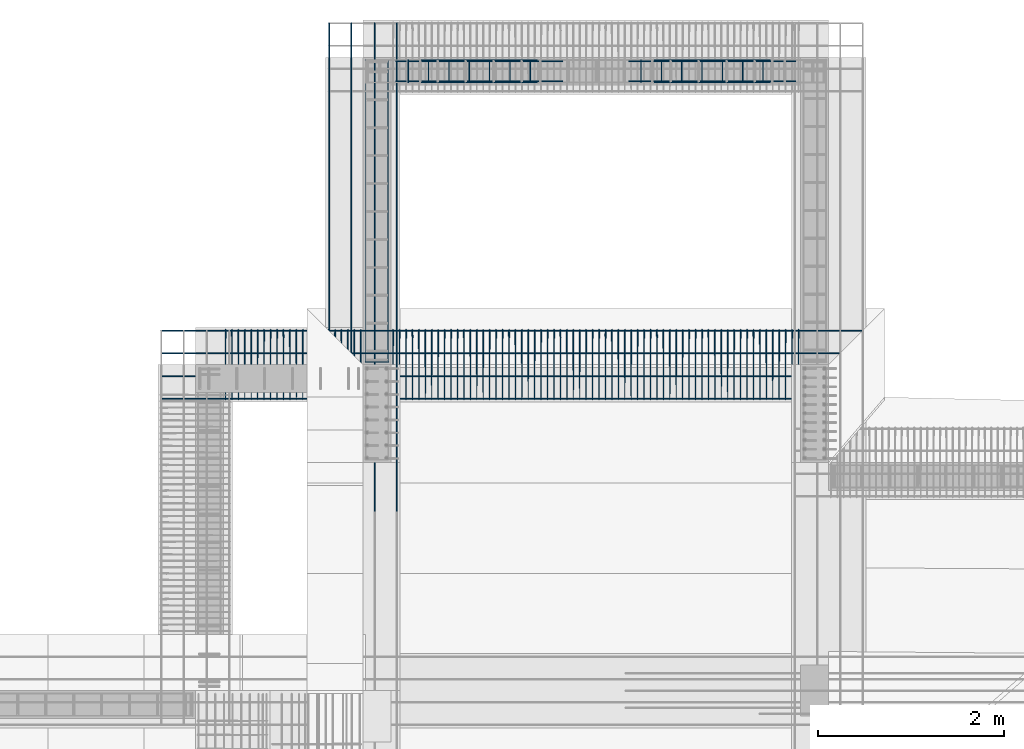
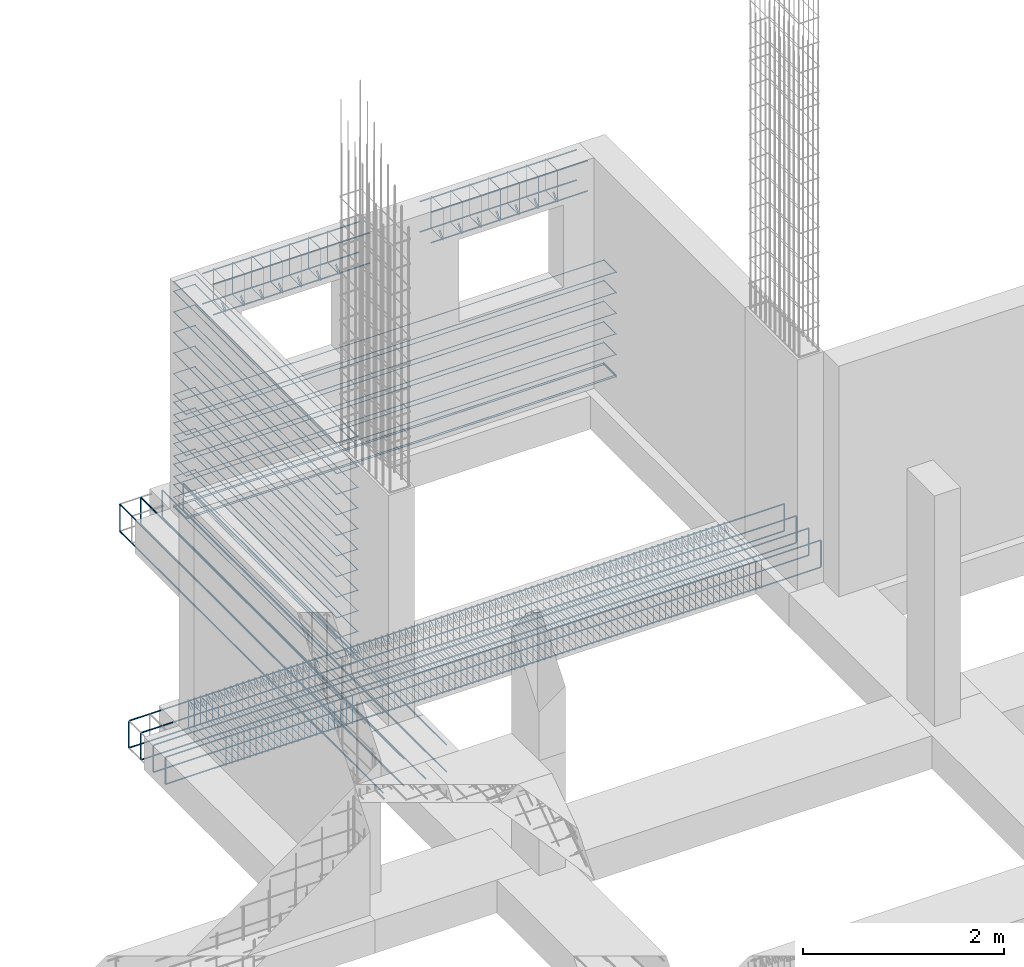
# One storey, part 11 of 15: 7 reinforcing bars.
"""IFC4 building model written with IfcOpenShell, lengths in metres."""

from ifc_helpers import new_model, entity, si_unit, origin_with_axes, place, context, project, spatial, source, transform, mapped, element, save


model = new_model("IFC4")

# Units and contexts
model_context = context("Model", 3, precision=1e-05, world=origin_with_axes())
ifc_project = project(units=[si_unit("LENGTHUNIT", "METRE"), si_unit("AREAUNIT", "SQUARE_METRE"), si_unit("VOLUMEUNIT", "CUBIC_METRE"), si_unit("MASSUNIT", "GRAM", prefix="KILO"), si_unit("TIMEUNIT", "SECOND"), si_unit("PLANEANGLEUNIT", "RADIAN"), si_unit("SOLIDANGLEUNIT", "STERADIAN"), si_unit("THERMODYNAMICTEMPERATUREUNIT", "DEGREE_CELSIUS")], contexts=[model_context])

# Site, building, storey
placement_1 = place(None, origin_with_axes())
site = spatial("IfcSite", under=ifc_project, at=placement_1, Name="Italia", CompositionType="ELEMENT")
building = spatial("IfcBuilding", under=site, at=placement_1, Name="Bifamiliare", CompositionType="ELEMENT")
storey = spatial("IfcBuildingStorey", under=building, at=placement_1, Name="Storey 0", CompositionType="ELEMENT", Elevation=0.0)

# Reinforcing bars
shared_shape_1 = source(origin_with_axes(), model_context, "Body", "AdvancedSweptSolid", [
    entity("IfcSweptDiskSolid", entity("IfcIndexedPolyCurve", entity("IfcCartesianPointList3D", [[6.08, 12.63, 0.03], [5.84, 12.63, 0.03], [5.83617, 12.6308, 0.03], [5.83293, 12.6329, 0.03], [5.83076, 12.6362, 0.03], [5.83, 12.64, 0.03], [5.83, 15.86, 0.03], [5.83076, 15.8638, 0.03], [5.83293, 15.8671, 0.03], [5.83617, 15.8692, 0.03], [5.84, 15.87, 0.03], [6.08, 15.87, 0.03]]), [entity("IfcLineIndex", [1, 2]), entity("IfcLineIndex", [2, 3]), entity("IfcLineIndex", [3, 4]), entity("IfcLineIndex", [4, 5]), entity("IfcLineIndex", [5, 6]), entity("IfcLineIndex", [6, 7]), entity("IfcLineIndex", [7, 8]), entity("IfcLineIndex", [8, 9]), entity("IfcLineIndex", [9, 10]), entity("IfcLineIndex", [10, 11]), entity("IfcLineIndex", [11, 12])], False), 0.005),
])
placement_2 = place(placement_1, origin_with_axes())
reinforcing_bar_1_placement = place(placement_2, origin_with_axes())
element("IfcReinforcingBar", 1, at=reinforcing_bar_1_placement, inside=storey, BarLength=3.73121, CrossSectionArea=7.854e-05, NominalDiameter=0.01, context=model_context, shape_type="MappedRepresentation", body=[
    mapped(shared_shape_1, transform((11.9, 28.5, 0.0), x_axis=(-1.0, 0.0, 0.0), y_axis=(0.0, -1.0, 0.0), z_axis=(0.0, 0.0, 1.0), scale=1.0)),
    mapped(shared_shape_1, transform((0.0, 0.0, 1.37), x_axis=(1.0, 0.0, 0.0), y_axis=(0.0, 1.0, 0.0), z_axis=(0.0, 0.0, 1.0), scale=1.0)),
    mapped(shared_shape_1, transform((0.0, 0.0, 2.37), x_axis=(1.0, 0.0, 0.0), y_axis=(0.0, 1.0, 0.0), z_axis=(0.0, 0.0, 1.0), scale=1.0)),
    mapped(shared_shape_1, transform((0.0, 0.0, 0.87), x_axis=(1.0, 0.0, 0.0), y_axis=(0.0, 1.0, 0.0), z_axis=(0.0, 0.0, 1.0), scale=1.0)),
    mapped(shared_shape_1, transform((0.0, 0.0, 0.62), x_axis=(1.0, 0.0, 0.0), y_axis=(0.0, 1.0, 0.0), z_axis=(0.0, 0.0, 1.0), scale=1.0)),
    mapped(shared_shape_1, transform((0.0, 0.0, 2.74), x_axis=(1.0, 0.0, 0.0), y_axis=(0.0, 1.0, 0.0), z_axis=(0.0, 0.0, 1.0), scale=1.0)),
    mapped(shared_shape_1, transform((0.0, 0.0, 1.12), x_axis=(1.0, 0.0, 0.0), y_axis=(0.0, 1.0, 0.0), z_axis=(0.0, 0.0, 1.0), scale=1.0)),
    mapped(shared_shape_1, transform((0.0, 0.0, 2.62), x_axis=(1.0, 0.0, 0.0), y_axis=(0.0, 1.0, 0.0), z_axis=(0.0, 0.0, 1.0), scale=1.0)),
    mapped(shared_shape_1, transform((0.0, 0.0, 1.62), x_axis=(1.0, 0.0, 0.0), y_axis=(0.0, 1.0, 0.0), z_axis=(0.0, 0.0, 1.0), scale=1.0)),
    mapped(shared_shape_1, transform((0.0, 0.0, 0.12), x_axis=(1.0, 0.0, 0.0), y_axis=(0.0, 1.0, 0.0), z_axis=(0.0, 0.0, 1.0), scale=1.0)),
    mapped(shared_shape_1, transform((0.0, 0.0, 0.0), x_axis=(1.0, 0.0, 0.0), y_axis=(0.0, 1.0, 0.0), z_axis=(0.0, 0.0, 1.0), scale=1.0)),
    mapped(shared_shape_1, transform((11.9, 28.5, 0.12), x_axis=(-1.0, 0.0, 0.0), y_axis=(0.0, -1.0, 0.0), z_axis=(0.0, 0.0, 1.0), scale=1.0)),
    mapped(shared_shape_1, transform((11.9, 28.5, 0.37), x_axis=(-1.0, 0.0, 0.0), y_axis=(0.0, -1.0, 0.0), z_axis=(0.0, 0.0, 1.0), scale=1.0)),
    mapped(shared_shape_1, transform((0.0, 0.0, 2.12), x_axis=(1.0, 0.0, 0.0), y_axis=(0.0, 1.0, 0.0), z_axis=(0.0, 0.0, 1.0), scale=1.0)),
    mapped(shared_shape_1, transform((0.0, 0.0, 0.37), x_axis=(1.0, 0.0, 0.0), y_axis=(0.0, 1.0, 0.0), z_axis=(0.0, 0.0, 1.0), scale=1.0)),
    mapped(shared_shape_1, transform((11.9, 28.5, 1.37), x_axis=(-1.0, 0.0, 0.0), y_axis=(0.0, -1.0, 0.0), z_axis=(0.0, 0.0, 1.0), scale=1.0)),
    mapped(shared_shape_1, transform((11.9, 28.5, 1.62), x_axis=(-1.0, 0.0, 0.0), y_axis=(0.0, -1.0, 0.0), z_axis=(0.0, 0.0, 1.0), scale=1.0)),
    mapped(shared_shape_1, transform((11.9, 28.5, 1.87), x_axis=(-1.0, 0.0, 0.0), y_axis=(0.0, -1.0, 0.0), z_axis=(0.0, 0.0, 1.0), scale=1.0)),
    mapped(shared_shape_1, transform((11.9, 28.5, 1.12), x_axis=(-1.0, 0.0, 0.0), y_axis=(0.0, -1.0, 0.0), z_axis=(0.0, 0.0, 1.0), scale=1.0)),
    mapped(shared_shape_1, transform((11.9, 28.5, 0.62), x_axis=(-1.0, 0.0, 0.0), y_axis=(0.0, -1.0, 0.0), z_axis=(0.0, 0.0, 1.0), scale=1.0)),
    mapped(shared_shape_1, transform((11.9, 28.5, 0.87), x_axis=(-1.0, 0.0, 0.0), y_axis=(0.0, -1.0, 0.0), z_axis=(0.0, 0.0, 1.0), scale=1.0)),
    mapped(shared_shape_1, transform((0.0, 0.0, 1.87), x_axis=(1.0, 0.0, 0.0), y_axis=(0.0, 1.0, 0.0), z_axis=(0.0, 0.0, 1.0), scale=1.0)),
    mapped(shared_shape_1, transform((11.9, 28.5, 2.37), x_axis=(-1.0, 0.0, 0.0), y_axis=(0.0, -1.0, 0.0), z_axis=(0.0, 0.0, 1.0), scale=1.0)),
    mapped(shared_shape_1, transform((11.9, 28.5, 2.74), x_axis=(-1.0, 0.0, 0.0), y_axis=(0.0, -1.0, 0.0), z_axis=(0.0, 0.0, 1.0), scale=1.0)),
    mapped(shared_shape_1, transform((11.9, 28.5, 2.62), x_axis=(-1.0, 0.0, 0.0), y_axis=(0.0, -1.0, 0.0), z_axis=(0.0, 0.0, 1.0), scale=1.0)),
    mapped(shared_shape_1, transform((11.9, 28.5, 2.12), x_axis=(-1.0, 0.0, 0.0), y_axis=(0.0, -1.0, 0.0), z_axis=(0.0, 0.0, 1.0), scale=1.0)),
])
shared_shape_2 = source(origin_with_axes(), model_context, "Body", "AdvancedSweptSolid", [
    entity("IfcSweptDiskSolid", entity("IfcIndexedPolyCurve", entity("IfcCartesianPointList3D", [[10.77, 15.88, 0.03], [10.77, 15.64, 0.03], [10.7692, 15.6362, 0.03], [10.7671, 15.6329, 0.03], [10.7638, 15.6308, 0.03], [10.76, 15.63, 0.03], [5.84, 15.63, 0.03], [5.83617, 15.6308, 0.03], [5.83293, 15.6329, 0.03], [5.83076, 15.6362, 0.03], [5.83, 15.64, 0.03], [5.83, 15.88, 0.03]]), [entity("IfcLineIndex", [1, 2]), entity("IfcLineIndex", [2, 3]), entity("IfcLineIndex", [3, 4]), entity("IfcLineIndex", [4, 5]), entity("IfcLineIndex", [5, 6]), entity("IfcLineIndex", [6, 7]), entity("IfcLineIndex", [7, 8]), entity("IfcLineIndex", [8, 9]), entity("IfcLineIndex", [9, 10]), entity("IfcLineIndex", [10, 11]), entity("IfcLineIndex", [11, 12])], False), 0.005),
])
reinforcing_bar_2_placement = place(placement_2, origin_with_axes())
element("IfcReinforcingBar", 2, at=reinforcing_bar_2_placement, inside=storey, BarLength=5.43122, CrossSectionArea=7.854e-05, NominalDiameter=0.01, context=model_context, shape_type="MappedRepresentation", body=[
    mapped(shared_shape_2, transform((0.0, 0.0, 0.77), x_axis=(1.0, 0.0, 0.0), y_axis=(0.0, 1.0, 0.0), z_axis=(0.0, 0.0, 1.0), scale=1.0)),
    mapped(shared_shape_2, transform((0.0, 0.0, 0.02), x_axis=(1.0, 0.0, 0.0), y_axis=(0.0, 1.0, 0.0), z_axis=(0.0, 0.0, 1.0), scale=1.0)),
    mapped(shared_shape_2, transform((0.0, 0.0, 0.0), x_axis=(1.0, 0.0, 0.0), y_axis=(0.0, 1.0, 0.0), z_axis=(0.0, 0.0, 1.0), scale=1.0)),
    mapped(shared_shape_2, transform((16.6, 31.5, 0.27), x_axis=(-1.0, 0.0, 0.0), y_axis=(0.0, -1.0, 0.0), z_axis=(0.0, 0.0, 1.0), scale=1.0)),
    mapped(shared_shape_2, transform((0.0, 0.0, 1.27), x_axis=(1.0, 0.0, 0.0), y_axis=(0.0, 1.0, 0.0), z_axis=(0.0, 0.0, 1.0), scale=1.0)),
    mapped(shared_shape_2, transform((0.0, 0.0, 0.27), x_axis=(1.0, 0.0, 0.0), y_axis=(0.0, 1.0, 0.0), z_axis=(0.0, 0.0, 1.0), scale=1.0)),
    mapped(shared_shape_2, transform((16.6, 31.5, 0.52), x_axis=(-1.0, 0.0, 0.0), y_axis=(0.0, -1.0, 0.0), z_axis=(0.0, 0.0, 1.0), scale=1.0)),
    mapped(shared_shape_2, transform((0.0, 0.0, 1.02), x_axis=(1.0, 0.0, 0.0), y_axis=(0.0, 1.0, 0.0), z_axis=(0.0, 0.0, 1.0), scale=1.0)),
    mapped(shared_shape_2, transform((16.6, 31.5, 0.0), x_axis=(-1.0, 0.0, 0.0), y_axis=(0.0, -1.0, 0.0), z_axis=(0.0, 0.0, 1.0), scale=1.0)),
    mapped(shared_shape_2, transform((16.6, 31.5, 0.02), x_axis=(-1.0, 0.0, 0.0), y_axis=(0.0, -1.0, 0.0), z_axis=(0.0, 0.0, 1.0), scale=1.0)),
    mapped(shared_shape_2, transform((0.0, 0.0, 0.52), x_axis=(1.0, 0.0, 0.0), y_axis=(0.0, 1.0, 0.0), z_axis=(0.0, 0.0, 1.0), scale=1.0)),
    mapped(shared_shape_2, transform((16.6, 31.5, 1.27), x_axis=(-1.0, 0.0, 0.0), y_axis=(0.0, -1.0, 0.0), z_axis=(0.0, 0.0, 1.0), scale=1.0)),
    mapped(shared_shape_2, transform((16.6, 31.5, 0.77), x_axis=(-1.0, 0.0, 0.0), y_axis=(0.0, -1.0, 0.0), z_axis=(0.0, 0.0, 1.0), scale=1.0)),
    mapped(shared_shape_2, transform((16.6, 31.5, 1.02), x_axis=(-1.0, 0.0, 0.0), y_axis=(0.0, -1.0, 0.0), z_axis=(0.0, 0.0, 1.0), scale=1.0)),
])
shared_shape_3 = source(origin_with_axes(), model_context, "Body", "AdvancedSweptSolid", [
    entity("IfcSweptDiskSolid", entity("IfcIndexedPolyCurve", entity("IfcCartesianPointList3D", [[10.45, 15.641, 2.391], [8.65, 15.641, 2.391]]), [entity("IfcLineIndex", [1, 2])], False), 0.008),
])
reinforcing_bar_3_placement = place(placement_2, origin_with_axes())
element("IfcReinforcingBar", 3, at=reinforcing_bar_3_placement, inside=storey, BarLength=1.8, CrossSectionArea=0.00020106, NominalDiameter=0.016, context=model_context, shape_type="MappedRepresentation", body=[
    mapped(shared_shape_3, transform((-2.5, 0.0, 0.368001), x_axis=(1.0, 0.0, 0.0), y_axis=(0.0, 1.0, 0.0), z_axis=(0.0, 0.0, 1.0), scale=1.0)),
    mapped(shared_shape_3, transform((-2.5, 0.0, 0.0), x_axis=(1.0, 0.0, 0.0), y_axis=(0.0, 1.0, 0.0), z_axis=(0.0, 0.0, 1.0), scale=1.0)),
    mapped(shared_shape_3, transform((-2.5, 0.218, 0.368001), x_axis=(1.0, 0.0, 0.0), y_axis=(0.0, 1.0, 0.0), z_axis=(0.0, 0.0, 1.0), scale=1.0)),
    mapped(shared_shape_3, transform((-2.5, 0.218, 0.0), x_axis=(1.0, 0.0, 0.0), y_axis=(0.0, 1.0, 0.0), z_axis=(0.0, 0.0, 1.0), scale=1.0)),
    mapped(shared_shape_3, transform((0.0, 0.0, 0.368001), x_axis=(1.0, 0.0, 0.0), y_axis=(0.0, 1.0, 0.0), z_axis=(0.0, 0.0, 1.0), scale=1.0)),
    mapped(shared_shape_3, transform((0.0, 0.0, 0.0), x_axis=(1.0, 0.0, 0.0), y_axis=(0.0, 1.0, 0.0), z_axis=(0.0, 0.0, 1.0), scale=1.0)),
    mapped(shared_shape_3, transform((0.0, 0.218, 0.368001), x_axis=(1.0, 0.0, 0.0), y_axis=(0.0, 1.0, 0.0), z_axis=(0.0, 0.0, 1.0), scale=1.0)),
    mapped(shared_shape_3, transform((0.0, 0.218, 0.0), x_axis=(1.0, 0.0, 0.0), y_axis=(0.0, 1.0, 0.0), z_axis=(0.0, 0.0, 1.0), scale=1.0)),
])
shared_shape_4 = source(origin_with_axes(), model_context, "Body", "AdvancedSweptSolid", [
    entity("IfcSweptDiskSolid", entity("IfcIndexedPolyCurve", entity("IfcCartesianPointList3D", [[10.096, 15.6997, 2.47071], [10.096, 15.6319, 2.40293], [10.096, 15.629, 2.39586], [10.096, 15.629, 2.389], [10.096, 15.6298, 2.38517], [10.096, 15.6319, 2.38193], [10.096, 15.6352, 2.37976], [10.096, 15.639, 2.379], [10.096, 15.861, 2.379], [10.096, 15.8648, 2.37976], [10.096, 15.8681, 2.38193], [10.096, 15.8702, 2.38517], [10.096, 15.871, 2.389], [10.096, 15.871, 2.761], [10.096, 15.8702, 2.76483], [10.096, 15.8681, 2.76807], [10.096, 15.8648, 2.77024], [10.096, 15.861, 2.771], [10.096, 15.639, 2.771], [10.096, 15.6352, 2.77024], [10.096, 15.6319, 2.76807], [10.096, 15.6298, 2.76483], [10.096, 15.629, 2.761], [10.096, 15.629, 2.389], [10.096, 15.6298, 2.38517], [10.096, 15.6319, 2.38193], [10.096, 15.6352, 2.37976], [10.096, 15.639, 2.379], [10.096, 15.6459, 2.379], [10.096, 15.6529, 2.38193], [10.096, 15.7207, 2.44971]]), [entity("IfcLineIndex", [1, 2]), entity("IfcLineIndex", [2, 3]), entity("IfcLineIndex", [3, 4]), entity("IfcLineIndex", [4, 5]), entity("IfcLineIndex", [5, 6]), entity("IfcLineIndex", [6, 7]), entity("IfcLineIndex", [7, 8]), entity("IfcLineIndex", [8, 9]), entity("IfcLineIndex", [9, 10]), entity("IfcLineIndex", [10, 11]), entity("IfcLineIndex", [11, 12]), entity("IfcLineIndex", [12, 13]), entity("IfcLineIndex", [13, 14]), entity("IfcLineIndex", [14, 15]), entity("IfcLineIndex", [15, 16]), entity("IfcLineIndex", [16, 17]), entity("IfcLineIndex", [17, 18]), entity("IfcLineIndex", [18, 19]), entity("IfcLineIndex", [19, 20]), entity("IfcLineIndex", [20, 21]), entity("IfcLineIndex", [21, 22]), entity("IfcLineIndex", [22, 23]), entity("IfcLineIndex", [23, 24]), entity("IfcLineIndex", [24, 25]), entity("IfcLineIndex", [25, 26]), entity("IfcLineIndex", [26, 27]), entity("IfcLineIndex", [27, 28]), entity("IfcLineIndex", [28, 29]), entity("IfcLineIndex", [29, 30]), entity("IfcLineIndex", [30, 31])], False), 0.004),
])
reinforcing_bar_4_placement = place(placement_2, origin_with_axes())
element("IfcReinforcingBar", 4, at=reinforcing_bar_4_placement, inside=storey, BarLength=1.48678, CrossSectionArea=5.0265e-05, NominalDiameter=0.008, context=model_context, shape_type="MappedRepresentation", body=[
    mapped(shared_shape_4, transform((-2.7184, 0.0, 0.0), x_axis=(1.0, 0.0, 0.0), y_axis=(0.0, 1.0, 0.0), z_axis=(0.0, 0.0, 1.0), scale=1.0)),
    mapped(shared_shape_4, transform((-2.5, 0.0, 0.0), x_axis=(1.0, 0.0, 0.0), y_axis=(0.0, 1.0, 0.0), z_axis=(0.0, 0.0, 1.0), scale=1.0)),
    mapped(shared_shape_4, transform((-2.9368, 0.0, 0.0), x_axis=(1.0, 0.0, 0.0), y_axis=(0.0, 1.0, 0.0), z_axis=(0.0, 0.0, 1.0), scale=1.0)),
    mapped(shared_shape_4, transform((-3.3736, 0.0, 0.0), x_axis=(1.0, 0.0, 0.0), y_axis=(0.0, 1.0, 0.0), z_axis=(0.0, 0.0, 1.0), scale=1.0)),
    mapped(shared_shape_4, transform((-3.1552, 0.0, 0.0), x_axis=(1.0, 0.0, 0.0), y_axis=(0.0, 1.0, 0.0), z_axis=(0.0, 0.0, 1.0), scale=1.0)),
    mapped(shared_shape_4, transform((-3.592, 0.0, 0.0), x_axis=(1.0, 0.0, 0.0), y_axis=(0.0, 1.0, 0.0), z_axis=(0.0, 0.0, 1.0), scale=1.0)),
    mapped(shared_shape_4, transform((0.0, 0.0, 0.0), x_axis=(1.0, 0.0, 0.0), y_axis=(0.0, 1.0, 0.0), z_axis=(0.0, 0.0, 1.0), scale=1.0)),
    mapped(shared_shape_4, transform((-3.8104, 0.0, 0.0), x_axis=(1.0, 0.0, 0.0), y_axis=(0.0, 1.0, 0.0), z_axis=(0.0, 0.0, 1.0), scale=1.0)),
    mapped(shared_shape_4, transform((-0.2184, 0.0, 0.0), x_axis=(1.0, 0.0, 0.0), y_axis=(0.0, 1.0, 0.0), z_axis=(0.0, 0.0, 1.0), scale=1.0)),
    mapped(shared_shape_4, transform((-0.6552, 0.0, 0.0), x_axis=(1.0, 0.0, 0.0), y_axis=(0.0, 1.0, 0.0), z_axis=(0.0, 0.0, 1.0), scale=1.0)),
    mapped(shared_shape_4, transform((-0.4368, 0.0, 0.0), x_axis=(1.0, 0.0, 0.0), y_axis=(0.0, 1.0, 0.0), z_axis=(0.0, 0.0, 1.0), scale=1.0)),
    mapped(shared_shape_4, transform((-0.8736, 0.0, 0.0), x_axis=(1.0, 0.0, 0.0), y_axis=(0.0, 1.0, 0.0), z_axis=(0.0, 0.0, 1.0), scale=1.0)),
    mapped(shared_shape_4, transform((-1.3104, 0.0, 0.0), x_axis=(1.0, 0.0, 0.0), y_axis=(0.0, 1.0, 0.0), z_axis=(0.0, 0.0, 1.0), scale=1.0)),
    mapped(shared_shape_4, transform((-1.092, 0.0, 0.0), x_axis=(1.0, 0.0, 0.0), y_axis=(0.0, 1.0, 0.0), z_axis=(0.0, 0.0, 1.0), scale=1.0)),
])
shared_shape_5 = source(origin_with_axes(), model_context, "Body", "AdvancedSweptSolid", [
    entity("IfcSweptDiskSolid", entity("IfcIndexedPolyCurve", entity("IfcCartesianPointList3D", [[4.32, 12.9053, -0.115711], [4.32035, 12.9731, -0.0479289], [4.32037, 12.976, -0.0408578], [4.3204, 12.976, -0.034], [4.32041, 12.9752, -0.0301732], [4.32043, 12.9731, -0.0269289], [4.32044, 12.9698, -0.0247612], [4.32045, 12.966, -0.024], [4.32309, 12.234, -0.024], [4.32311, 12.2302, -0.0247612], [4.32312, 12.2269, -0.0269289], [4.32313, 12.2248, -0.0301732], [4.32315, 12.224, -0.034], [4.32435, 12.224, -0.366], [4.32436, 12.2248, -0.369827], [4.32437, 12.2269, -0.373071], [4.32439, 12.2302, -0.375239], [4.3244, 12.234, -0.376], [4.32704, 12.966, -0.376], [4.32705, 12.9698, -0.375239], [4.32707, 12.9731, -0.373071], [4.32708, 12.9752, -0.369827], [4.3271, 12.976, -0.366], [4.32829, 12.976, -0.034], [4.32831, 12.9752, -0.0301732], [4.32832, 12.9731, -0.0269289], [4.32833, 12.9698, -0.0247612], [4.32835, 12.966, -0.024], [4.32837, 12.9591, -0.024], [4.3284, 12.9521, -0.0269289], [4.32875, 12.8843, -0.0947113]]), [entity("IfcLineIndex", [1, 2]), entity("IfcLineIndex", [2, 3]), entity("IfcLineIndex", [3, 4]), entity("IfcLineIndex", [4, 5]), entity("IfcLineIndex", [5, 6]), entity("IfcLineIndex", [6, 7]), entity("IfcLineIndex", [7, 8]), entity("IfcLineIndex", [8, 9]), entity("IfcLineIndex", [9, 10]), entity("IfcLineIndex", [10, 11]), entity("IfcLineIndex", [11, 12]), entity("IfcLineIndex", [12, 13]), entity("IfcLineIndex", [13, 14]), entity("IfcLineIndex", [14, 15]), entity("IfcLineIndex", [15, 16]), entity("IfcLineIndex", [16, 17]), entity("IfcLineIndex", [17, 18]), entity("IfcLineIndex", [18, 19]), entity("IfcLineIndex", [19, 20]), entity("IfcLineIndex", [20, 21]), entity("IfcLineIndex", [21, 22]), entity("IfcLineIndex", [22, 23]), entity("IfcLineIndex", [23, 24]), entity("IfcLineIndex", [24, 25]), entity("IfcLineIndex", [25, 26]), entity("IfcLineIndex", [26, 27]), entity("IfcLineIndex", [27, 28]), entity("IfcLineIndex", [28, 29]), entity("IfcLineIndex", [29, 30]), entity("IfcLineIndex", [30, 31])], False), 0.004),
])
reinforcing_bar_5_placement = place(placement_2, origin_with_axes())
element("IfcReinforcingBar", 5, at=reinforcing_bar_5_placement, inside=storey, BarLength=2.42679, CrossSectionArea=5.0265e-05, NominalDiameter=0.008, context=model_context, shape_type="MappedRepresentation", body=[
    mapped(shared_shape_5, transform((3.18159, 0.0, 0.0), x_axis=(1.0, 0.0, 0.0), y_axis=(0.0, 1.0, 0.0), z_axis=(0.0, 0.0, 1.0), scale=1.0)),
    mapped(shared_shape_5, transform((2.00724, 0.0, 0.0), x_axis=(1.0, 0.0, 0.0), y_axis=(0.0, 1.0, 0.0), z_axis=(0.0, 0.0, 1.0), scale=1.0)),
    mapped(shared_shape_5, transform((1.86908, 0.0, 0.0), x_axis=(1.0, 0.0, 0.0), y_axis=(0.0, 1.0, 0.0), z_axis=(0.0, 0.0, 1.0), scale=1.0)),
    mapped(shared_shape_5, transform((1.8, 0.0, 0.0), x_axis=(1.0, 0.0, 0.0), y_axis=(0.0, 1.0, 0.0), z_axis=(0.0, 0.0, 1.0), scale=1.0)),
    mapped(shared_shape_5, transform((3.11251, 0.0, 0.0), x_axis=(1.0, 0.0, 0.0), y_axis=(0.0, 1.0, 0.0), z_axis=(0.0, 0.0, 1.0), scale=1.0)),
    mapped(shared_shape_5, transform((1.93816, 0.0, 0.0), x_axis=(1.0, 0.0, 0.0), y_axis=(0.0, 1.0, 0.0), z_axis=(0.0, 0.0, 1.0), scale=1.0)),
    mapped(shared_shape_5, transform((2.1454, 0.0, 0.0), x_axis=(1.0, 0.0, 0.0), y_axis=(0.0, 1.0, 0.0), z_axis=(0.0, 0.0, 1.0), scale=1.0)),
    mapped(shared_shape_5, transform((2.07632, 0.0, 0.0), x_axis=(1.0, 0.0, 0.0), y_axis=(0.0, 1.0, 0.0), z_axis=(0.0, 0.0, 1.0), scale=1.0)),
    mapped(shared_shape_5, transform((2.28356, 0.0, 0.0), x_axis=(1.0, 0.0, 0.0), y_axis=(0.0, 1.0, 0.0), z_axis=(0.0, 0.0, 1.0), scale=1.0)),
    mapped(shared_shape_5, transform((2.21448, 0.0, 0.0), x_axis=(1.0, 0.0, 0.0), y_axis=(0.0, 1.0, 0.0), z_axis=(0.0, 0.0, 1.0), scale=1.0)),
    mapped(shared_shape_5, transform((2.42171, 0.0, 0.0), x_axis=(1.0, 0.0, 0.0), y_axis=(0.0, 1.0, 0.0), z_axis=(0.0, 0.0, 1.0), scale=1.0)),
    mapped(shared_shape_5, transform((2.69803, 0.0, 0.0), x_axis=(1.0, 0.0, 0.0), y_axis=(0.0, 1.0, 0.0), z_axis=(0.0, 0.0, 1.0), scale=1.0)),
    mapped(shared_shape_5, transform((2.55987, 0.0, 0.0), x_axis=(1.0, 0.0, 0.0), y_axis=(0.0, 1.0, 0.0), z_axis=(0.0, 0.0, 1.0), scale=1.0)),
    mapped(shared_shape_5, transform((2.49079, 0.0, 0.0), x_axis=(1.0, 0.0, 0.0), y_axis=(0.0, 1.0, 0.0), z_axis=(0.0, 0.0, 1.0), scale=1.0)),
    mapped(shared_shape_5, transform((2.35263, 0.0, 0.0), x_axis=(1.0, 0.0, 0.0), y_axis=(0.0, 1.0, 0.0), z_axis=(0.0, 0.0, 1.0), scale=1.0)),
    mapped(shared_shape_5, transform((2.62895, 0.0, 0.0), x_axis=(1.0, 0.0, 0.0), y_axis=(0.0, 1.0, 0.0), z_axis=(0.0, 0.0, 1.0), scale=1.0)),
    mapped(shared_shape_5, transform((2.83619, 0.0, 0.0), x_axis=(1.0, 0.0, 0.0), y_axis=(0.0, 1.0, 0.0), z_axis=(0.0, 0.0, 1.0), scale=1.0)),
    mapped(shared_shape_5, transform((2.76711, 0.0, 0.0), x_axis=(1.0, 0.0, 0.0), y_axis=(0.0, 1.0, 0.0), z_axis=(0.0, 0.0, 1.0), scale=1.0)),
    mapped(shared_shape_5, transform((2.97435, 0.0, 0.0), x_axis=(1.0, 0.0, 0.0), y_axis=(0.0, 1.0, 0.0), z_axis=(0.0, 0.0, 1.0), scale=1.0)),
    mapped(shared_shape_5, transform((2.90527, 0.0, 0.0), x_axis=(1.0, 0.0, 0.0), y_axis=(0.0, 1.0, 0.0), z_axis=(0.0, 0.0, 1.0), scale=1.0)),
    mapped(shared_shape_5, transform((1.38286, 0.0, 0.0), x_axis=(1.0, 0.0, 0.0), y_axis=(0.0, 1.0, 0.0), z_axis=(0.0, 0.0, 1.0), scale=1.0)),
    mapped(shared_shape_5, transform((0.207428, 0.0, 0.0), x_axis=(1.0, 0.0, 0.0), y_axis=(0.0, 1.0, 0.0), z_axis=(0.0, 0.0, 1.0), scale=1.0)),
    mapped(shared_shape_5, transform((0.0691428, 0.0, 0.0), x_axis=(1.0, 0.0, 0.0), y_axis=(0.0, 1.0, 0.0), z_axis=(0.0, 0.0, 1.0), scale=1.0)),
    mapped(shared_shape_5, transform((1.452, 0.0, 0.0), x_axis=(1.0, 0.0, 0.0), y_axis=(0.0, 1.0, 0.0), z_axis=(0.0, 0.0, 1.0), scale=1.0)),
    mapped(shared_shape_5, transform((3.04343, 0.0, 0.0), x_axis=(1.0, 0.0, 0.0), y_axis=(0.0, 1.0, 0.0), z_axis=(0.0, 0.0, 1.0), scale=1.0)),
    mapped(shared_shape_5, transform((0.138286, 0.0, 0.0), x_axis=(1.0, 0.0, 0.0), y_axis=(0.0, 1.0, 0.0), z_axis=(0.0, 0.0, 1.0), scale=1.0)),
    mapped(shared_shape_5, transform((0.345714, 0.0, 0.0), x_axis=(1.0, 0.0, 0.0), y_axis=(0.0, 1.0, 0.0), z_axis=(0.0, 0.0, 1.0), scale=1.0)),
    mapped(shared_shape_5, transform((0.276571, 0.0, 0.0), x_axis=(1.0, 0.0, 0.0), y_axis=(0.0, 1.0, 0.0), z_axis=(0.0, 0.0, 1.0), scale=1.0)),
    mapped(shared_shape_5, transform((0.484, 0.0, 0.0), x_axis=(1.0, 0.0, 0.0), y_axis=(0.0, 1.0, 0.0), z_axis=(0.0, 0.0, 1.0), scale=1.0)),
    mapped(shared_shape_5, transform((0.414857, 0.0, 0.0), x_axis=(1.0, 0.0, 0.0), y_axis=(0.0, 1.0, 0.0), z_axis=(0.0, 0.0, 1.0), scale=1.0)),
    mapped(shared_shape_5, transform((0.622285, 0.0, 0.0), x_axis=(1.0, 0.0, 0.0), y_axis=(0.0, 1.0, 0.0), z_axis=(0.0, 0.0, 1.0), scale=1.0)),
    mapped(shared_shape_5, transform((0.898857, 0.0, 0.0), x_axis=(1.0, 0.0, 0.0), y_axis=(0.0, 1.0, 0.0), z_axis=(0.0, 0.0, 1.0), scale=1.0)),
    mapped(shared_shape_5, transform((0.760571, 0.0, 0.0), x_axis=(1.0, 0.0, 0.0), y_axis=(0.0, 1.0, 0.0), z_axis=(0.0, 0.0, 1.0), scale=1.0)),
    mapped(shared_shape_5, transform((0.691428, 0.0, 0.0), x_axis=(1.0, 0.0, 0.0), y_axis=(0.0, 1.0, 0.0), z_axis=(0.0, 0.0, 1.0), scale=1.0)),
    mapped(shared_shape_5, transform((0.553143, 0.0, 0.0), x_axis=(1.0, 0.0, 0.0), y_axis=(0.0, 1.0, 0.0), z_axis=(0.0, 0.0, 1.0), scale=1.0)),
    mapped(shared_shape_5, transform((0.829714, 0.0, 0.0), x_axis=(1.0, 0.0, 0.0), y_axis=(0.0, 1.0, 0.0), z_axis=(0.0, 0.0, 1.0), scale=1.0)),
    mapped(shared_shape_5, transform((1.03714, 0.0, 0.0), x_axis=(1.0, 0.0, 0.0), y_axis=(0.0, 1.0, 0.0), z_axis=(0.0, 0.0, 1.0), scale=1.0)),
    mapped(shared_shape_5, transform((0.967999, 0.0, 0.0), x_axis=(1.0, 0.0, 0.0), y_axis=(0.0, 1.0, 0.0), z_axis=(0.0, 0.0, 1.0), scale=1.0)),
    mapped(shared_shape_5, transform((1.17543, 0.0, 0.0), x_axis=(1.0, 0.0, 0.0), y_axis=(0.0, 1.0, 0.0), z_axis=(0.0, 0.0, 1.0), scale=1.0)),
    mapped(shared_shape_5, transform((1.10629, 0.0, 0.0), x_axis=(1.0, 0.0, 0.0), y_axis=(0.0, 1.0, 0.0), z_axis=(0.0, 0.0, 1.0), scale=1.0)),
    mapped(shared_shape_5, transform((1.31371, 0.0, 0.0), x_axis=(1.0, 0.0, 0.0), y_axis=(0.0, 1.0, 0.0), z_axis=(0.0, 0.0, 1.0), scale=1.0)),
    mapped(shared_shape_5, transform((4.90873, -5.24521e-05, 2.13087e-05), x_axis=(1.0, 1.22364e-05, 0.0), y_axis=(-1.19779e-05, 1.0, 0.0), z_axis=(0.0, 0.0, 1.0), scale=1.0)),
    mapped(shared_shape_5, transform((0.0, 0.0, 0.0), x_axis=(1.0, 0.0, 0.0), y_axis=(0.0, 1.0, 0.0), z_axis=(0.0, 0.0, 1.0), scale=1.0)),
    mapped(shared_shape_5, transform((6.15216, -5.24521e-05, 2.13087e-05), x_axis=(1.0, 1.22364e-05, 0.0), y_axis=(-1.19779e-05, 1.0, 0.0), z_axis=(0.0, 0.0, 1.0), scale=1.0)),
    mapped(shared_shape_5, transform((1.24457, 0.0, 0.0), x_axis=(1.0, 0.0, 0.0), y_axis=(0.0, 1.0, 0.0), z_axis=(0.0, 0.0, 1.0), scale=1.0)),
    mapped(shared_shape_5, transform((4.83965, -5.24521e-05, 2.13087e-05), x_axis=(1.0, 1.22364e-05, 0.0), y_axis=(-1.19779e-05, 1.0, 0.0), z_axis=(0.0, 0.0, 1.0), scale=1.0)),
    mapped(shared_shape_5, transform((5.04689, -5.24521e-05, 2.13087e-05), x_axis=(1.0, 1.22364e-05, 0.0), y_axis=(-1.19779e-05, 1.0, 0.0), z_axis=(0.0, 0.0, 1.0), scale=1.0)),
    mapped(shared_shape_5, transform((4.97781, -5.24521e-05, 2.13087e-05), x_axis=(1.0, 1.22364e-05, 0.0), y_axis=(-1.19779e-05, 1.0, 0.0), z_axis=(0.0, 0.0, 1.0), scale=1.0)),
    mapped(shared_shape_5, transform((5.18505, -5.24521e-05, 2.13087e-05), x_axis=(1.0, 1.22364e-05, 0.0), y_axis=(-1.19779e-05, 1.0, 0.0), z_axis=(0.0, 0.0, 1.0), scale=1.0)),
    mapped(shared_shape_5, transform((5.11597, -5.24521e-05, 2.13087e-05), x_axis=(1.0, 1.22364e-05, 0.0), y_axis=(-1.19779e-05, 1.0, 0.0), z_axis=(0.0, 0.0, 1.0), scale=1.0)),
    mapped(shared_shape_5, transform((5.3232, -5.24521e-05, 2.13087e-05), x_axis=(1.0, 1.22364e-05, 0.0), y_axis=(-1.19779e-05, 1.0, 0.0), z_axis=(0.0, 0.0, 1.0), scale=1.0)),
    mapped(shared_shape_5, transform((5.59952, -5.24521e-05, 2.13087e-05), x_axis=(1.0, 1.22364e-05, 0.0), y_axis=(-1.19779e-05, 1.0, 0.0), z_axis=(0.0, 0.0, 1.0), scale=1.0)),
    mapped(shared_shape_5, transform((5.46136, -5.24521e-05, 2.13087e-05), x_axis=(1.0, 1.22364e-05, 0.0), y_axis=(-1.19779e-05, 1.0, 0.0), z_axis=(0.0, 0.0, 1.0), scale=1.0)),
    mapped(shared_shape_5, transform((5.39228, -5.24521e-05, 2.13087e-05), x_axis=(1.0, 1.22364e-05, 0.0), y_axis=(-1.19779e-05, 1.0, 0.0), z_axis=(0.0, 0.0, 1.0), scale=1.0)),
    mapped(shared_shape_5, transform((5.25413, -5.24521e-05, 2.13087e-05), x_axis=(1.0, 1.22364e-05, 0.0), y_axis=(-1.19779e-05, 1.0, 0.0), z_axis=(0.0, 0.0, 1.0), scale=1.0)),
    mapped(shared_shape_5, transform((5.53044, -5.24521e-05, 2.13087e-05), x_axis=(1.0, 1.22364e-05, 0.0), y_axis=(-1.19779e-05, 1.0, 0.0), z_axis=(0.0, 0.0, 1.0), scale=1.0)),
    mapped(shared_shape_5, transform((5.73768, -5.24521e-05, 2.13087e-05), x_axis=(1.0, 1.22364e-05, 0.0), y_axis=(-1.19779e-05, 1.0, 0.0), z_axis=(0.0, 0.0, 1.0), scale=1.0)),
    mapped(shared_shape_5, transform((5.6686, -5.24521e-05, 2.13087e-05), x_axis=(1.0, 1.22364e-05, 0.0), y_axis=(-1.19779e-05, 1.0, 0.0), z_axis=(0.0, 0.0, 1.0), scale=1.0)),
    mapped(shared_shape_5, transform((5.87584, -5.24521e-05, 2.13087e-05), x_axis=(1.0, 1.22364e-05, 0.0), y_axis=(-1.19779e-05, 1.0, 0.0), z_axis=(0.0, 0.0, 1.0), scale=1.0)),
    mapped(shared_shape_5, transform((5.80676, -5.24521e-05, 2.13087e-05), x_axis=(1.0, 1.22364e-05, 0.0), y_axis=(-1.19779e-05, 1.0, 0.0), z_axis=(0.0, 0.0, 1.0), scale=1.0)),
    mapped(shared_shape_5, transform((6.014, -5.24521e-05, 2.13087e-05), x_axis=(1.0, 1.22364e-05, 0.0), y_axis=(-1.19779e-05, 1.0, 0.0), z_axis=(0.0, 0.0, 1.0), scale=1.0)),
    mapped(shared_shape_5, transform((3.38883, 0.0, 0.0), x_axis=(1.0, 0.0, 0.0), y_axis=(0.0, 1.0, 0.0), z_axis=(0.0, 0.0, 1.0), scale=1.0)),
    mapped(shared_shape_5, transform((4.70149, -5.24521e-05, 2.13087e-05), x_axis=(1.0, 1.22364e-05, 0.0), y_axis=(-1.19779e-05, 1.0, 0.0), z_axis=(0.0, 0.0, 1.0), scale=1.0)),
    mapped(shared_shape_5, transform((6.08308, -5.24521e-05, 2.13087e-05), x_axis=(1.0, 1.22364e-05, 0.0), y_axis=(-1.19779e-05, 1.0, 0.0), z_axis=(0.0, 0.0, 1.0), scale=1.0)),
    mapped(shared_shape_5, transform((5.94492, -5.24521e-05, 2.13087e-05), x_axis=(1.0, 1.22364e-05, 0.0), y_axis=(-1.19779e-05, 1.0, 0.0), z_axis=(0.0, 0.0, 1.0), scale=1.0)),
    mapped(shared_shape_5, transform((4.77057, -5.24521e-05, 2.13087e-05), x_axis=(1.0, 1.22364e-05, 0.0), y_axis=(-1.19779e-05, 1.0, 0.0), z_axis=(0.0, 0.0, 1.0), scale=1.0)),
    mapped(shared_shape_5, transform((3.52698, 0.0, 0.0), x_axis=(1.0, 0.0, 0.0), y_axis=(0.0, 1.0, 0.0), z_axis=(0.0, 0.0, 1.0), scale=1.0)),
    mapped(shared_shape_5, transform((3.4579, 0.0, 0.0), x_axis=(1.0, 0.0, 0.0), y_axis=(0.0, 1.0, 0.0), z_axis=(0.0, 0.0, 1.0), scale=1.0)),
    mapped(shared_shape_5, transform((3.66514, 0.0, 0.0), x_axis=(1.0, 0.0, 0.0), y_axis=(0.0, 1.0, 0.0), z_axis=(0.0, 0.0, 1.0), scale=1.0)),
    mapped(shared_shape_5, transform((3.59606, 0.0, 0.0), x_axis=(1.0, 0.0, 0.0), y_axis=(0.0, 1.0, 0.0), z_axis=(0.0, 0.0, 1.0), scale=1.0)),
    mapped(shared_shape_5, transform((3.80346, -5.24521e-05, 2.13087e-05), x_axis=(1.0, 1.22364e-05, 0.0), y_axis=(-1.19779e-05, 1.0, 0.0), z_axis=(0.0, 0.0, 1.0), scale=1.0)),
    mapped(shared_shape_5, transform((4.07978, -5.24521e-05, 2.13087e-05), x_axis=(1.0, 1.22364e-05, 0.0), y_axis=(-1.19779e-05, 1.0, 0.0), z_axis=(0.0, 0.0, 1.0), scale=1.0)),
    mapped(shared_shape_5, transform((3.94162, -5.24521e-05, 2.13087e-05), x_axis=(1.0, 1.22364e-05, 0.0), y_axis=(-1.19779e-05, 1.0, 0.0), z_axis=(0.0, 0.0, 1.0), scale=1.0)),
    mapped(shared_shape_5, transform((3.87254, -5.24521e-05, 2.13087e-05), x_axis=(1.0, 1.22364e-05, 0.0), y_axis=(-1.19779e-05, 1.0, 0.0), z_axis=(0.0, 0.0, 1.0), scale=1.0)),
    mapped(shared_shape_5, transform((3.73438, -5.24521e-05, 2.13087e-05), x_axis=(1.0, 1.22364e-05, 0.0), y_axis=(-1.19779e-05, 1.0, 0.0), z_axis=(0.0, 0.0, 1.0), scale=1.0)),
    mapped(shared_shape_5, transform((4.0107, -5.24521e-05, 2.13087e-05), x_axis=(1.0, 1.22364e-05, 0.0), y_axis=(-1.19779e-05, 1.0, 0.0), z_axis=(0.0, 0.0, 1.0), scale=1.0)),
    mapped(shared_shape_5, transform((4.21793, -5.24521e-05, 2.13087e-05), x_axis=(1.0, 1.22364e-05, 0.0), y_axis=(-1.19779e-05, 1.0, 0.0), z_axis=(0.0, 0.0, 1.0), scale=1.0)),
    mapped(shared_shape_5, transform((4.14885, -5.24521e-05, 2.13087e-05), x_axis=(1.0, 1.22364e-05, 0.0), y_axis=(-1.19779e-05, 1.0, 0.0), z_axis=(0.0, 0.0, 1.0), scale=1.0)),
    mapped(shared_shape_5, transform((4.35609, -5.24521e-05, 2.13087e-05), x_axis=(1.0, 1.22364e-05, 0.0), y_axis=(-1.19779e-05, 1.0, 0.0), z_axis=(0.0, 0.0, 1.0), scale=1.0)),
    mapped(shared_shape_5, transform((4.28701, -5.24521e-05, 2.13087e-05), x_axis=(1.0, 1.22364e-05, 0.0), y_axis=(-1.19779e-05, 1.0, 0.0), z_axis=(0.0, 0.0, 1.0), scale=1.0)),
    mapped(shared_shape_5, transform((4.49425, -5.24521e-05, 2.13087e-05), x_axis=(1.0, 1.22364e-05, 0.0), y_axis=(-1.19779e-05, 1.0, 0.0), z_axis=(0.0, 0.0, 1.0), scale=1.0)),
    mapped(shared_shape_5, transform((3.31975, 0.0, 0.0), x_axis=(1.0, 0.0, 0.0), y_axis=(0.0, 1.0, 0.0), z_axis=(0.0, 0.0, 1.0), scale=1.0)),
    mapped(shared_shape_5, transform((4.63241, -5.24521e-05, 2.13087e-05), x_axis=(1.0, 1.22364e-05, 0.0), y_axis=(-1.19779e-05, 1.0, 0.0), z_axis=(0.0, 0.0, 1.0), scale=1.0)),
    mapped(shared_shape_5, transform((4.56333, -5.24521e-05, 2.13087e-05), x_axis=(1.0, 1.22364e-05, 0.0), y_axis=(-1.19779e-05, 1.0, 0.0), z_axis=(0.0, 0.0, 1.0), scale=1.0)),
    mapped(shared_shape_5, transform((4.42517, -5.24521e-05, 2.13087e-05), x_axis=(1.0, 1.22364e-05, 0.0), y_axis=(-1.19779e-05, 1.0, 0.0), z_axis=(0.0, 0.0, 1.0), scale=1.0)),
    mapped(shared_shape_5, transform((3.25067, 0.0, 0.0), x_axis=(1.0, 0.0, 0.0), y_axis=(0.0, 1.0, 0.0), z_axis=(0.0, 0.0, 1.0), scale=1.0)),
])
shared_shape_6 = source(origin_with_axes(), model_context, "Body", "AdvancedSweptSolid", [
    entity("IfcSweptDiskSolid", entity("IfcIndexedPolyCurve", entity("IfcCartesianPointList3D", [[3.635, 12.236, -0.114], [3.635, 12.236, -0.354], [3.63576, 12.236, -0.357827], [3.63793, 12.236, -0.361071], [3.64117, 12.236, -0.363239], [3.645, 12.236, -0.364], [11.155, 12.236, -0.364], [11.1588, 12.236, -0.363239], [11.1621, 12.236, -0.361071], [11.1642, 12.236, -0.357827], [11.165, 12.236, -0.354], [11.165, 12.236, -0.114]]), [entity("IfcLineIndex", [1, 2]), entity("IfcLineIndex", [2, 3]), entity("IfcLineIndex", [3, 4]), entity("IfcLineIndex", [4, 5]), entity("IfcLineIndex", [5, 6]), entity("IfcLineIndex", [6, 7]), entity("IfcLineIndex", [7, 8]), entity("IfcLineIndex", [8, 9]), entity("IfcLineIndex", [9, 10]), entity("IfcLineIndex", [10, 11]), entity("IfcLineIndex", [11, 12])], False), 0.008),
])
reinforcing_bar_6_placement = place(placement_2, origin_with_axes())
element("IfcReinforcingBar", 6, at=reinforcing_bar_6_placement, inside=storey, BarLength=8.02121, CrossSectionArea=0.00020106, NominalDiameter=0.016, context=model_context, shape_type="MappedRepresentation", body=[
    mapped(shared_shape_6, transform((0.0, 25.2, -0.4), x_axis=(1.0, 0.0, 0.0), y_axis=(0.0, -1.0, 0.0), z_axis=(0.0, 0.0, -1.0), scale=1.0)),
    mapped(shared_shape_6, transform((0.0, 24.472, -0.4), x_axis=(1.0, 0.0, 0.0), y_axis=(0.0, -1.0, 0.0), z_axis=(0.0, 0.0, -1.0), scale=1.0)),
    mapped(shared_shape_6, transform((0.0, 24.96, -0.4), x_axis=(1.0, 0.0, 0.0), y_axis=(0.0, -1.0, 0.0), z_axis=(0.0, 0.0, -1.0), scale=1.0)),
    mapped(shared_shape_6, transform((0.0, 24.712, -0.4), x_axis=(1.0, 0.0, 0.0), y_axis=(0.0, -1.0, 0.0), z_axis=(0.0, 0.0, -1.0), scale=1.0)),
    mapped(shared_shape_6, transform((0.0, 0.728, 0.0), x_axis=(1.0, 0.0, 0.0), y_axis=(0.0, 1.0, 0.0), z_axis=(0.0, 0.0, 1.0), scale=1.0)),
    mapped(shared_shape_6, transform((0.0, 0.0, 0.0), x_axis=(1.0, 0.0, 0.0), y_axis=(0.0, 1.0, 0.0), z_axis=(0.0, 0.0, 1.0), scale=1.0)),
    mapped(shared_shape_6, transform((0.0, 0.488, 0.0), x_axis=(1.0, 0.0, 0.0), y_axis=(0.0, 1.0, 0.0), z_axis=(0.0, 0.0, 1.0), scale=1.0)),
    mapped(shared_shape_6, transform((0.0, 0.24, 0.0), x_axis=(1.0, 0.0, 0.0), y_axis=(0.0, 1.0, 0.0), z_axis=(0.0, 0.0, 1.0), scale=1.0)),
])
shared_shape_7 = source(origin_with_axes(), model_context, "Body", "AdvancedSweptSolid", [
    entity("IfcSweptDiskSolid", entity("IfcIndexedPolyCurve", entity("IfcCartesianPointList3D", [[6.164, 11.0242, -0.364], [6.164, 11.55, -0.364], [6.164, 16.255, -0.364], [6.164, 16.2588, -0.363239], [6.164, 16.2621, -0.361071], [6.164, 16.2642, -0.357827], [6.164, 16.265, -0.354], [6.164, 16.265, -0.114]]), [entity("IfcLineIndex", [1, 2]), entity("IfcLineIndex", [2, 3]), entity("IfcLineIndex", [3, 4]), entity("IfcLineIndex", [4, 5]), entity("IfcLineIndex", [5, 6]), entity("IfcLineIndex", [6, 7]), entity("IfcLineIndex", [7, 8])], False), 0.008),
])
reinforcing_bar_7_placement = place(placement_2, origin_with_axes())
element("IfcReinforcingBar", 7, at=reinforcing_bar_7_placement, inside=storey, BarLength=5.48642, CrossSectionArea=0.00020106, NominalDiameter=0.016, context=model_context, shape_type="MappedRepresentation", body=[
    mapped(shared_shape_7, transform((11.6, 0.0, -0.4), x_axis=(-1.0, 0.0, 0.0), y_axis=(0.0, 1.0, 0.0), z_axis=(0.0, 0.0, -1.0), scale=1.0)),
    mapped(shared_shape_7, transform((12.328, 0.0, -0.4), x_axis=(-1.0, 0.0, 0.0), y_axis=(0.0, 1.0, 0.0), z_axis=(0.0, 0.0, -1.0), scale=1.0)),
    mapped(shared_shape_7, transform((11.84, 0.0, -0.4), x_axis=(-1.0, 0.0, 0.0), y_axis=(0.0, 1.0, 0.0), z_axis=(0.0, 0.0, -1.0), scale=1.0)),
    mapped(shared_shape_7, transform((12.088, 0.0, -0.4), x_axis=(-1.0, 0.0, 0.0), y_axis=(0.0, 1.0, 0.0), z_axis=(0.0, 0.0, -1.0), scale=1.0)),
    mapped(shared_shape_7, transform((-0.728, 0.0, 0.0), x_axis=(1.0, 0.0, 0.0), y_axis=(0.0, 1.0, 0.0), z_axis=(0.0, 0.0, 1.0), scale=1.0)),
    mapped(shared_shape_7, transform((0.0, 0.0, 0.0), x_axis=(1.0, 0.0, 0.0), y_axis=(0.0, 1.0, 0.0), z_axis=(0.0, 0.0, 1.0), scale=1.0)),
    mapped(shared_shape_7, transform((-0.488, 0.0, 0.0), x_axis=(1.0, 0.0, 0.0), y_axis=(0.0, 1.0, 0.0), z_axis=(0.0, 0.0, 1.0), scale=1.0)),
    mapped(shared_shape_7, transform((-0.24, 0.0, 0.0), x_axis=(1.0, 0.0, 0.0), y_axis=(0.0, 1.0, 0.0), z_axis=(0.0, 0.0, 1.0), scale=1.0)),
])

save(model, "model.ifc")
